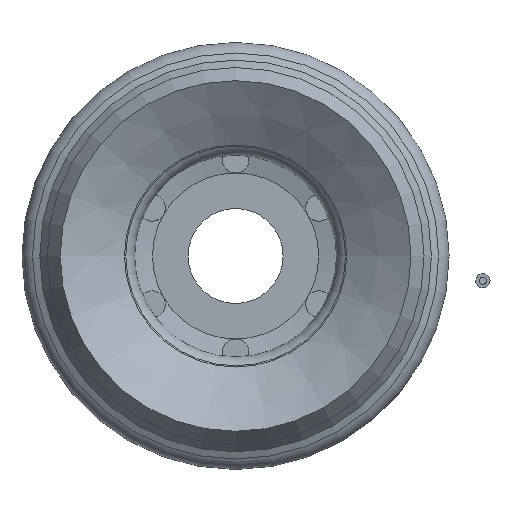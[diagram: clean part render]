
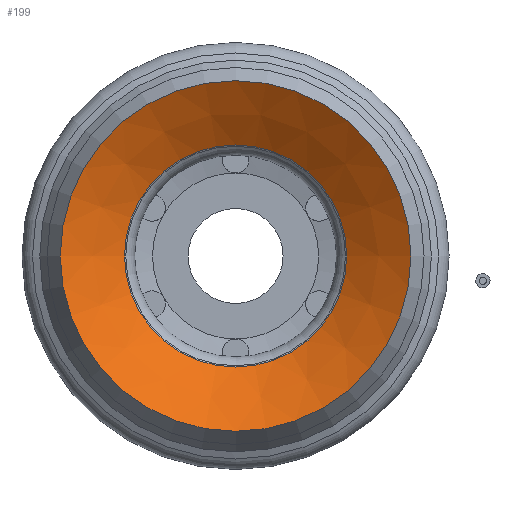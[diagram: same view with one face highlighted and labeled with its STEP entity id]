
A CAD part, front view. The second image highlights one B-rep face of the part: STEP entity #199.
In plain terms, the highlighted conical face has half-angle 56.427 degrees and reference radius 9.359 mm.
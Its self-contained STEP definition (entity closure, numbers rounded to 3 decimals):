
#199=ADVANCED_FACE('',(#374,#375),#376,.F.);
#374=FACE_OUTER_BOUND('',#525,.T.);
#375=FACE_BOUND('',#526,.T.);
#376=CONICAL_SURFACE('',#527,9.359,0.985);
#525=EDGE_LOOP('',(#746));
#526=EDGE_LOOP('',(#747));
#527=AXIS2_PLACEMENT_3D('',#748,#749,#750);
#746=ORIENTED_EDGE('',*,*,#835,.T.);
#747=ORIENTED_EDGE('',*,*,#837,.F.);
#748=CARTESIAN_POINT('',(0.,-25.572,0.0));
#749=DIRECTION('',(0.,-1.0,0.0));
#750=DIRECTION('',(1.0,0.,0.0));
#835=EDGE_CURVE('',#942,#942,#943,.T.);
#837=EDGE_CURVE('',#945,#945,#946,.T.);
#942=VERTEX_POINT('',#1250);
#943=CIRCLE('',#1251,14.775);
#945=VERTEX_POINT('',#1253);
#946=CIRCLE('',#1254,9.359);
#1250=CARTESIAN_POINT('',(14.775,-29.166,0.0));
#1251=AXIS2_PLACEMENT_3D('',#1352,#1353,#1354);
#1253=CARTESIAN_POINT('',(9.359,-25.572,0.0));
#1254=AXIS2_PLACEMENT_3D('',#1355,#1356,#1357);
#1352=CARTESIAN_POINT('',(0.,-29.166,0.0));
#1353=DIRECTION('',(0.,-1.0,0.0));
#1354=DIRECTION('',(1.0,0.,0.0));
#1355=CARTESIAN_POINT('',(0.,-25.572,0.0));
#1356=DIRECTION('',(0.,-1.0,0.0));
#1357=DIRECTION('',(1.0,0.,0.0));
